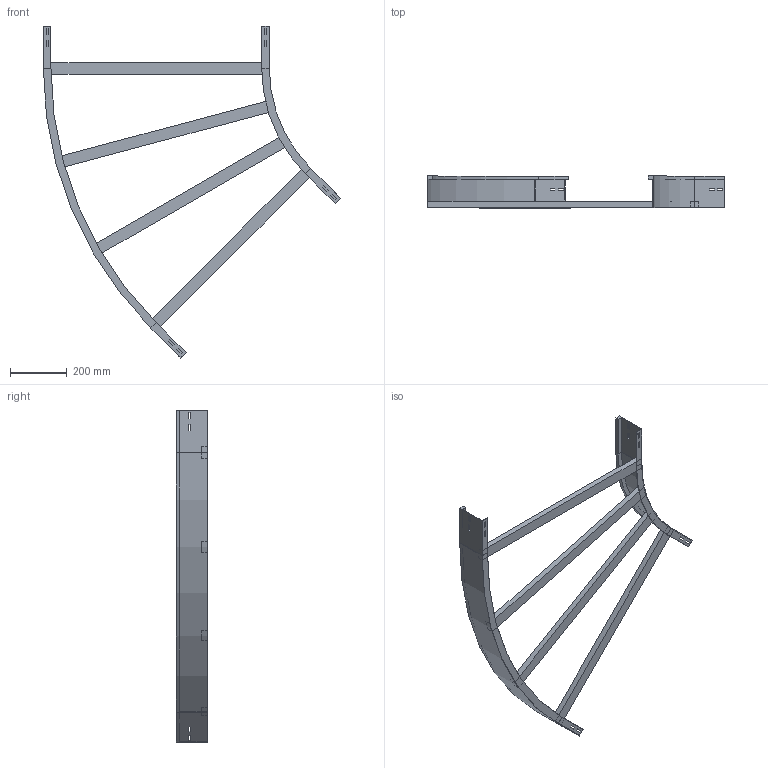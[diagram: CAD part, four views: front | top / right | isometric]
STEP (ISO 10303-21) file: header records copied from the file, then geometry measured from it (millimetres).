
FILE_DESCRIPTION (( 'STEP AP214' ), '1' );
FILE_NAME ('11B5J800.step', '2025-02-21T15:13:59', ( '' ), ( '' ), 'SwSTEP 2.0', 'SolidWorks 2023', '' );
FILE_SCHEMA (( 'AUTOMOTIVE_DESIGN' ));
Length unit declared in the file: millimetre
Products named in the file (4): 11B5J800; A2_LONGH.INTERNO 45°_H112.5_R500; TRAVERSINO_800; A2_LONGH.ESTERNO 45°_H112.5_R500+800
Assembly tree (6 placements, depth 2):
  11B5J800
    A2_LONGH.INTERNO 45°_H112.5_R500
    A2_LONGH.ESTERNO 45°_H112.5_R500+800
    TRAVERSINO_800  x4
Bounding box: 1052.51 x 112.5 x 1175.3 mm (x, y, z)
Volume: 3514517.7 mm3; surface area: 1016805.9 mm2
Topology: 6 solids, 6 shells, 140 faces, 352 edges, 224 vertices
Faces by surface type: plane 132, cylinder 8
Entity records: 3829 total; most frequent: CARTESIAN_POINT 647, ORIENTED_EDGE 632, DIRECTION 594, EDGE_CURVE 316, LINE 300, VECTOR 300, VERTEX_POINT 200, EDGE_LOOP 154
